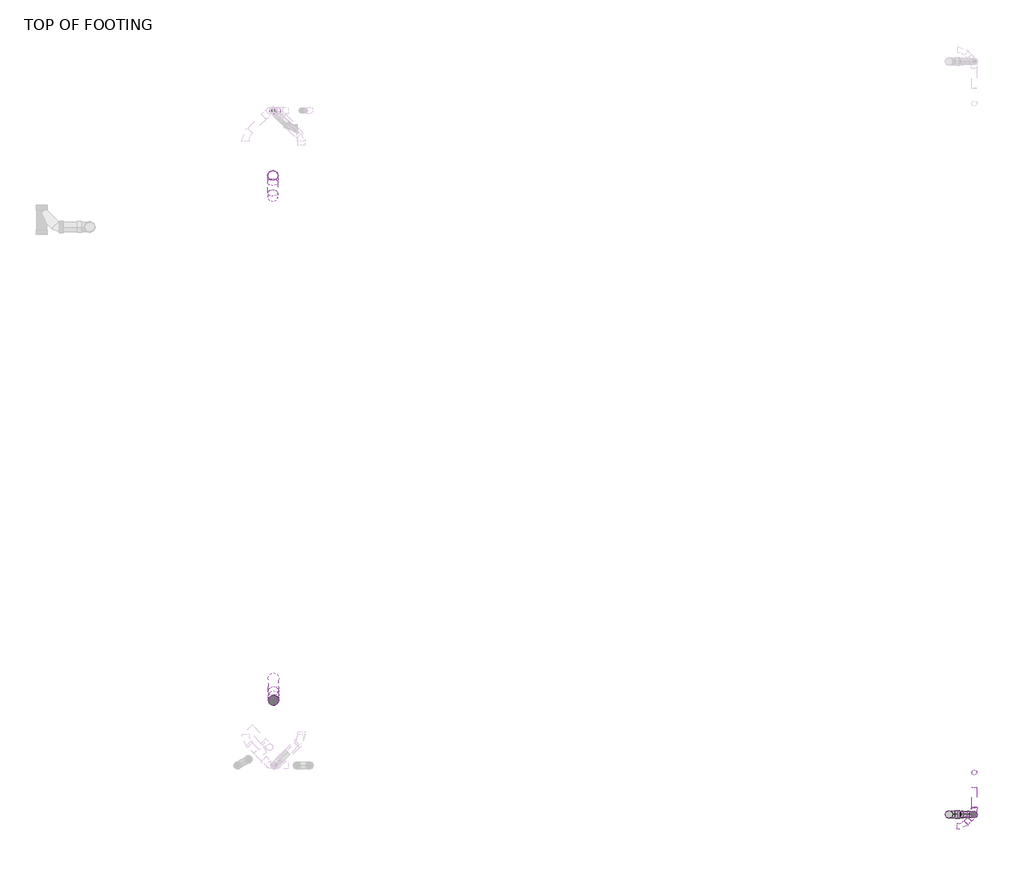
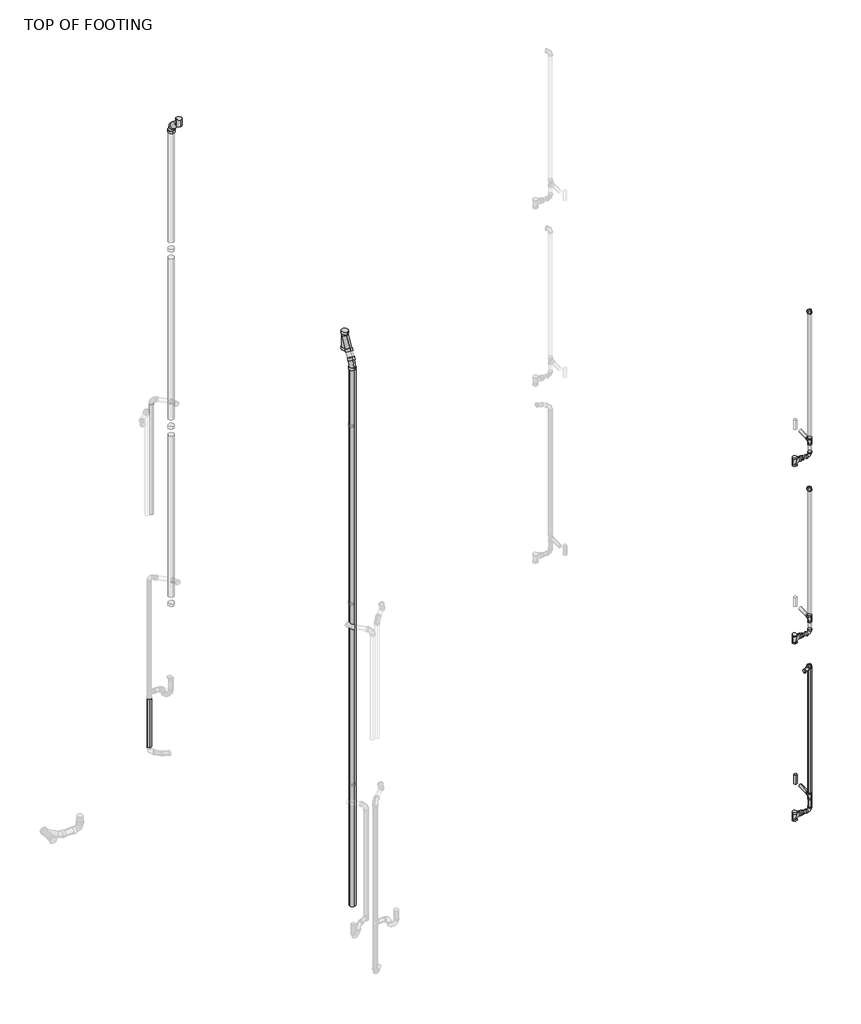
# One storey, part 7 of 8: 30 pipe segments, 20 pipe fittings.
"""IFC4 building model written with IfcOpenShell, lengths in millimetres."""

from ifc_helpers import new_model, si_unit, point, frame, frame_2d, origin, place, context, project, spatial, circle_curve, trimmed, segment, composite_curve, outline, extrude, transform, mapped, element, save
from ifc_brep_helpers import plane_surface, cylinder_surface, advanced_brep
from components import bend_pvc_sch_40_dwv_standard_35af41d9, bend_pvc_sch_40_dwv_standard_e4da6302, bend_pvc_sch_40_dwv_standard_c28c2be1, bend_pvc_sch_40_dwv_standard_db659cf1, bend_pvc_sch_40_dwv_standard_5ba2ab1b, ges_wye_45_deg_reducing_pvc_sch_40_dwv_standard_f9c3620a, pipe_tee_copper_k_e3b6c8a8, reducer_pvc_sch_40_dwv_standard_b23fa098, tee_sanitary_pvc_sch_40_dwv_standard_3578d342, tee_sanitary_pvc_sch_40_dwv_standard_32d7fc6d

model = new_model("IFC4")

# Units and contexts
model_context = context("Model", 3, world=origin())
ifc_project = project(units=[si_unit("LENGTHUNIT", "METRE", prefix="MILLI")], contexts=[model_context])

# Site, building, storey
site = spatial("IfcSite", under=ifc_project)
building = spatial("IfcBuilding", under=site)
storey = spatial("IfcBuildingStorey", under=building, Name="TOP OF FOOTING", Elevation=-762.0)

# Pipe fittings
placement = place(None, origin())
bend_pvc_sch_40_dwv_standard_shape = bend_pvc_sch_40_dwv_standard_35af41d9(model_context)
element("IfcPipeFitting", 1, ObjectType="Bend - PVC - Sch 40 - DWV : Standard", at=placement, inside=storey, context=model_context, shape_type="MappedRepresentation", body=[
    mapped(bend_pvc_sch_40_dwv_standard_shape, transform((23291.1209875, 2089.7012881, 337.3617935), x_axis=(0.0, 0.0, -1.0), y_axis=(1.0, 0.0, 0.0), z_axis=(0.0, -1.0, 0.0))),
])
element("IfcPipeFitting", 2, ObjectType="Bend - PVC - Sch 40 - DWV : Standard", at=placement, inside=storey, context=model_context, shape_type="MappedRepresentation", body=[
    mapped(bend_pvc_sch_40_dwv_standard_shape, transform((23291.1209875, 2089.7012881, 3182.1617935), x_axis=(0.0, 0.0, -1.0), y_axis=(1.0, 0.0, 0.0), z_axis=(0.0, -1.0, 0.0))),
])
element("IfcPipeFitting", 3, ObjectType="Bend - PVC - Sch 40 - DWV : Standard", at=placement, inside=storey, context=model_context, shape_type="MappedRepresentation", body=[
    mapped(bend_pvc_sch_40_dwv_standard_shape, transform((23291.1209875, 2089.7012881, 6026.9617935), x_axis=(0.0, 0.0, -1.0), y_axis=(1.0, 0.0, 0.0), z_axis=(0.0, -1.0, 0.0))),
])
bend_pvc_sch_40_dwv_standard_2_shape = bend_pvc_sch_40_dwv_standard_e4da6302(model_context)
element("IfcPipeFitting", 4, ObjectType="Bend - PVC - Sch 40 - DWV : Standard", at=placement, inside=storey, context=model_context, shape_type="MappedRepresentation", body=[
    mapped(bend_pvc_sch_40_dwv_standard_2_shape, transform((23291.1337024, 2089.6991493, 2682.6265087), x_axis=(0.0, 0.0, 1.0), y_axis=(0.7070876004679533, 0.7071259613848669, 0.0), z_axis=(-0.7071259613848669, 0.7070876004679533, 0.0))),
])
element("IfcPipeFitting", 5, ObjectType="Bend - PVC - Sch 40 - DWV : Standard", at=placement, inside=storey, context=model_context, shape_type="MappedRepresentation", body=[
    mapped(bend_pvc_sch_40_dwv_standard_2_shape, transform((23291.1337024, 2089.6991493, 5527.4265087), x_axis=(0.0, 0.0, 1.0), y_axis=(0.7070876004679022, 0.7071259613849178, 0.0), z_axis=(-0.7071259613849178, 0.7070876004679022, 0.0))),
])
element("IfcPipeFitting", 6, ObjectType="Bend - PVC - Sch 40 - DWV : Standard", at=placement, inside=storey, context=model_context, shape_type="MappedRepresentation", body=[
    mapped(bend_pvc_sch_40_dwv_standard_2_shape, transform((23291.1302501, 2089.699846, 8371.9619664), x_axis=(0.0, 0.0, 1.0), y_axis=(0.7070876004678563, 0.7071259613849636, 0.0), z_axis=(-0.7071259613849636, 0.7070876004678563, 0.0))),
])
bend_pvc_sch_40_dwv_standard_3_shape = bend_pvc_sch_40_dwv_standard_c28c2be1(model_context)
element("IfcPipeFitting", 7, ObjectType="Bend - PVC - Sch 40 - DWV : Standard", at=placement, inside=storey, context=model_context, shape_type="MappedRepresentation", body=[
    mapped(bend_pvc_sch_40_dwv_standard_3_shape, transform((23183.3743364, 1981.9339371, 2683.7490021), x_axis=(-0.7070684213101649, -0.7071067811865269, 0.007365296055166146), y_axis=(0.7070684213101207, -0.7071067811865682, -0.007365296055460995), z_axis=(0.01041610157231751, 0.0, 0.9999457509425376))),
])
bend_pvc_sch_40_dwv_standard_4_shape = bend_pvc_sch_40_dwv_standard_db659cf1(model_context)
element("IfcPipeFitting", 8, ObjectType="Bend - PVC - Sch 40 - DWV : Standard", at=placement, inside=storey, context=model_context, shape_type="MappedRepresentation", body=[
    mapped(bend_pvc_sch_40_dwv_standard_4_shape, transform((16935.7559337, 7876.8887644, 10015.6880691), x_axis=(0.0, 0.0, 1.0), y_axis=(0.0, -1.0, 0.0), z_axis=(1.0, 0.0, 0.0))),
])
bend_pvc_sch_40_dwv_standard_5_shape = bend_pvc_sch_40_dwv_standard_5ba2ab1b(model_context)
element("IfcPipeFitting", 9, ObjectType="Bend - PVC - Sch 40 - DWV : Standard", at=placement, inside=storey, context=model_context, shape_type="MappedRepresentation", body=[
    mapped(bend_pvc_sch_40_dwv_standard_5_shape, transform((16942.371453, 3124.1638117, 9097.5600954), x_axis=(0.002621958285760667, -0.49999828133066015, -0.8660224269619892), y_axis=(-0.004541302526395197, 0.8660105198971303, -0.5000051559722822), z_axis=(0.9999862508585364, 0.005243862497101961, 0.0))),
])
ges_wye_45_deg_reducing_pvc_sch_40_dwv_standard_shape = ges_wye_45_deg_reducing_pvc_sch_40_dwv_standard_f9c3620a(model_context)
element("IfcPipeFitting", 10, ObjectType="GES Wye 45 Deg Reducing - PVC - Sch 40 - DWV : Standard", at=placement, inside=storey, context=model_context, shape_type="MappedRepresentation", body=[
    mapped(ges_wye_45_deg_reducing_pvc_sch_40_dwv_standard_shape, transform((16941.9266298, 3321.8387881, 9439.9431978), x_axis=(0.0, 0.0, 1.0), y_axis=(0.0, 1.0, 0.0), z_axis=(-1.0, 0.0, 0.0))),
])
pipe_tee_copper_k_shape = pipe_tee_copper_k_e3b6c8a8(model_context)
element("IfcPipeFitting", 11, ObjectType="Pipe Tee : Copper- K", at=placement, inside=storey, context=model_context, shape_type="MappedRepresentation", body=[
    mapped(pipe_tee_copper_k_shape, transform((16935.7559337, 7679.2137881, 10213.3630455), x_axis=(0.0, 0.0, 1.0), y_axis=(0.0, -1.0, 0.0), z_axis=(1.0, 0.0, 0.0))),
])
reducer_pvc_sch_40_dwv_standard_shape = reducer_pvc_sch_40_dwv_standard_b23fa098(model_context)
element("IfcPipeFitting", 12, ObjectType="Reducer - PVC - Sch 40 - DWV : Standard", at=placement, inside=storey, context=model_context, shape_type="MappedRepresentation", body=[
    mapped(reducer_pvc_sch_40_dwv_standard_shape, transform((23139.5211875, 2089.7012881, 337.3617935), x_axis=(1.0, 0.0, 0.0), y_axis=(0.0, 1.0, 0.0), z_axis=(0.0, 0.0, 1.0))),
])
element("IfcPipeFitting", 13, ObjectType="Reducer - PVC - Sch 40 - DWV : Standard", at=placement, inside=storey, context=model_context, shape_type="MappedRepresentation", body=[
    mapped(reducer_pvc_sch_40_dwv_standard_shape, transform((23139.5211875, 2089.7012881, 3182.1617935), x_axis=(1.0, 0.0, 0.0), y_axis=(0.0, 1.0, 0.0), z_axis=(0.0, 0.0, 1.0))),
])
element("IfcPipeFitting", 14, ObjectType="Reducer - PVC - Sch 40 - DWV : Standard", at=placement, inside=storey, context=model_context, shape_type="MappedRepresentation", body=[
    mapped(reducer_pvc_sch_40_dwv_standard_shape, transform((23139.5211875, 2089.7012881, 6026.9617935), x_axis=(1.0, 0.0, 0.0), y_axis=(0.0, 1.0, 0.0), z_axis=(0.0, 0.0, 1.0))),
])
tee_sanitary_pvc_sch_40_dwv_standard_shape = tee_sanitary_pvc_sch_40_dwv_standard_3578d342(model_context)
element("IfcPipeFitting", 15, ObjectType="Tee Sanitary - PVC - Sch 40 - DWV : Standard", at=placement, inside=storey, context=model_context, shape_type="MappedRepresentation", body=[
    mapped(tee_sanitary_pvc_sch_40_dwv_standard_shape, transform((23291.1209875, 2089.7012881, 6267.6170389), x_axis=(0.0, 0.0, 1.0), y_axis=(0.0, 1.0, 0.0), z_axis=(-1.0, 0.0, 0.0))),
])
element("IfcPipeFitting", 16, ObjectType="Tee Sanitary - PVC - Sch 40 - DWV : Standard", at=placement, inside=storey, context=model_context, shape_type="MappedRepresentation", body=[
    mapped(tee_sanitary_pvc_sch_40_dwv_standard_shape, transform((23291.1209875, 2089.7012881, 3422.8170389), x_axis=(0.0, 0.0, 1.0), y_axis=(0.0, 1.0, 0.0), z_axis=(-1.0, 0.0, 0.0))),
])
element("IfcPipeFitting", 17, ObjectType="Tee Sanitary - PVC - Sch 40 - DWV : Standard", at=placement, inside=storey, context=model_context, shape_type="MappedRepresentation", body=[
    mapped(tee_sanitary_pvc_sch_40_dwv_standard_shape, transform((23291.1209875, 2089.7012881, 578.0170389), x_axis=(0.0, 0.0, 1.0), y_axis=(0.0, 1.0, 0.0), z_axis=(-1.0, 0.0, 0.0))),
])
tee_sanitary_pvc_sch_40_dwv_standard_2_shape = tee_sanitary_pvc_sch_40_dwv_standard_32d7fc6d(model_context)
element("IfcPipeFitting", 18, ObjectType="Tee Sanitary - PVC - Sch 40 - DWV : Standard", at=placement, inside=storey, context=model_context, shape_type="MappedRepresentation", body=[
    mapped(tee_sanitary_pvc_sch_40_dwv_standard_2_shape, transform((23061.4980301, 2089.9069038, 337.3617935), x_axis=(0.0, 0.0, 1.0), y_axis=(1.0, 0.0, 0.0), z_axis=(0.0, 1.0, 0.0))),
])
element("IfcPipeFitting", 19, ObjectType="Tee Sanitary - PVC - Sch 40 - DWV : Standard", at=placement, inside=storey, context=model_context, shape_type="MappedRepresentation", body=[
    mapped(tee_sanitary_pvc_sch_40_dwv_standard_2_shape, transform((23061.4980301, 2089.9069038, 3182.1617935), x_axis=(0.0, 0.0, 1.0), y_axis=(1.0, 0.0, 0.0), z_axis=(0.0, 1.0, 0.0))),
])
element("IfcPipeFitting", 20, ObjectType="Tee Sanitary - PVC - Sch 40 - DWV : Standard", at=placement, inside=storey, context=model_context, shape_type="MappedRepresentation", body=[
    mapped(tee_sanitary_pvc_sch_40_dwv_standard_2_shape, transform((23061.4980301, 2089.9069038, 6026.9617935), x_axis=(0.0, 0.0, 1.0), y_axis=(1.0, 0.0, 0.0), z_axis=(0.0, 1.0, 0.0))),
])

# Pipe segments
element("IfcPipeSegment", 21, ObjectType="PVC - SAN/STORM", at=placement, inside=storey, context=model_context, shape_type="SweptSolid", body=[
    extrude(outline(composite_curve([segment(trimmed(circle_curve(frame_2d((0.0, -24.13)), 24.13), [point((-24.13, -24.13))], [point((0.0, 0.0))], False, "CARTESIAN"), True, "CONTINUOUS"), segment(trimmed(circle_curve(frame_2d((0.0, -24.13)), 24.13), [point((0.0, 0.0))], [point((24.13, -24.13))], False, "CARTESIAN"), True, "CONTINUOUS"), segment(trimmed(circle_curve(frame_2d((0.0, -24.13)), 24.13), [point((24.13, -24.13))], [point((0.0, -48.2600001))], False, "CARTESIAN"), True, "CONTINUOUS"), segment(trimmed(circle_curve(frame_2d((0.0, -24.13)), 24.13), [point((0.0, -48.2600001))], [point((-24.13, -24.13))], False, "CARTESIAN"), True, "CONTINUOUS")], self_intersect=False)), frame((23291.1209875, 2151.8490706, 6244.1331025), z_axis=(0.0, 0.9999457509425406, 0.010416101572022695), x_axis=(1.0, 0.0, 0.0)), (0.0, 0.0, 1.0), 182.6011639),
])
element("IfcPipeSegment", 22, ObjectType="PVC - SAN/STORM", at=placement, inside=storey, context=model_context, shape_type="SweptSolid", body=[
    extrude(outline(composite_curve([segment(trimmed(circle_curve(frame_2d((23291.1209875, 2469.1137881)), 24.13), [point((23266.9909875, 2469.1137881))], [point((23291.1209875, 2493.2437881))], False, "CARTESIAN"), True, "CONTINUOUS"), segment(trimmed(circle_curve(frame_2d((23291.1209875, 2469.1137881)), 24.13), [point((23291.1209875, 2493.2437881))], [point((23315.2509875, 2469.1137881))], False, "CARTESIAN"), True, "CONTINUOUS"), segment(trimmed(circle_curve(frame_2d((23291.1209875, 2469.1137881)), 24.13), [point((23315.2509875, 2469.1137881))], [point((23291.1209875, 2444.9837881))], False, "CARTESIAN"), True, "CONTINUOUS"), segment(trimmed(circle_curve(frame_2d((23291.1209875, 2469.1137881)), 24.13), [point((23291.1209875, 2444.9837881))], [point((23266.9909875, 2469.1137881))], False, "CARTESIAN"), True, "CONTINUOUS")], self_intersect=False)), frame((0.0, 0.0, 6225.7010858), z_axis=(0.0, 0.0, 1.0), x_axis=(1.0, 0.0, 0.0)), (0.0, 0.0, 1.0), 139.7),
])
element("IfcPipeSegment", 23, ObjectType="PVC - SAN/STORM", at=placement, inside=storey, context=model_context, shape_type="SweptSolid", body=[
    extrude(outline(composite_curve([segment(trimmed(circle_curve(frame_2d((2089.7012881, 6026.9617935)), 24.13), [point((2113.8312881, 6026.9617935))], [point((2089.7012881, 6002.8317935))], False, "CARTESIAN"), True, "CONTINUOUS"), segment(trimmed(circle_curve(frame_2d((2089.7012881, 6026.9617935)), 24.13), [point((2089.7012881, 6002.8317935))], [point((2065.5712881, 6026.9617935))], False, "CARTESIAN"), True, "CONTINUOUS"), segment(trimmed(circle_curve(frame_2d((2089.7012881, 6026.9617935)), 24.13), [point((2065.5712881, 6026.9617935))], [point((2089.7012881, 6051.0917935))], False, "CARTESIAN"), True, "CONTINUOUS"), segment(trimmed(circle_curve(frame_2d((2089.7012881, 6026.9617935)), 24.13), [point((2089.7012881, 6051.0917935))], [point((2113.8312881, 6026.9617935))], False, "CARTESIAN"), True, "CONTINUOUS")], self_intersect=False)), frame((23189.5083875, 0.0, 0.0), z_axis=(1.0, 0.0, 0.0), x_axis=(0.0, 1.0, 0.0)), (0.0, 0.0, 1.0), 39.7128),
])
element("IfcPipeSegment", 24, ObjectType="PVC - SAN/STORM", at=placement, inside=storey, context=model_context, shape_type="SweptSolid", body=[
    extrude(outline(composite_curve([segment(trimmed(circle_curve(frame_2d((23291.1209875, 2089.7012881)), 24.13), [point((23315.2509875, 2089.7012881))], [point((23291.1209875, 2065.5712881))], False, "CARTESIAN"), True, "CONTINUOUS"), segment(trimmed(circle_curve(frame_2d((23291.1209875, 2089.7012881)), 24.13), [point((23291.1209875, 2065.5712881))], [point((23266.9909875, 2089.7012881))], False, "CARTESIAN"), True, "CONTINUOUS"), segment(trimmed(circle_curve(frame_2d((23291.1209875, 2089.7012881)), 24.13), [point((23266.9909875, 2089.7012881))], [point((23291.1209875, 2113.8312881))], False, "CARTESIAN"), True, "CONTINUOUS"), segment(trimmed(circle_curve(frame_2d((23291.1209875, 2089.7012881)), 24.13), [point((23291.1209875, 2113.8312881))], [point((23315.2509875, 2089.7012881))], False, "CARTESIAN"), True, "CONTINUOUS")], self_intersect=False)), frame((0.0, 0.0, 6088.8615935), z_axis=(0.0, 0.0, 1.0), x_axis=(1.0, 0.0, 0.0)), (0.0, 0.0, 1.0), 116.8556454),
])
element("IfcPipeSegment", 25, ObjectType="PVC - SAN/STORM", at=placement, inside=storey, context=model_context, shape_type="SweptSolid", body=[
    extrude(outline(composite_curve([segment(trimmed(circle_curve(frame_2d((0.0, 24.13)), 24.13), [point((-24.13, 24.13))], [point((0.0, 48.26))], False, "CARTESIAN"), True, "CONTINUOUS"), segment(trimmed(circle_curve(frame_2d((0.0, 24.13)), 24.13), [point((0.0, 48.26))], [point((24.13, 24.13))], False, "CARTESIAN"), True, "CONTINUOUS"), segment(trimmed(circle_curve(frame_2d((0.0, 24.13)), 24.13), [point((24.13, 24.13))], [point((0.0, 0.0))], False, "CARTESIAN"), True, "CONTINUOUS"), segment(trimmed(circle_curve(frame_2d((0.0, 24.13)), 24.13), [point((0.0, 0.0))], [point((-24.13, 24.13))], False, "CARTESIAN"), True, "CONTINUOUS")], self_intersect=False)), frame((23291.1209875, 2065.5712881, 6313.8111829), z_axis=(4.640019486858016e-06, -7.223967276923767e-07, 0.9999999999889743), x_axis=(0.9999999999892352, 3.351985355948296e-12, -4.6400194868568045e-06)), (0.0, 0.0, 1.0), 1996.2509661),
])
element("IfcPipeSegment", 26, ObjectType="PVC - SAN/STORM", at=placement, inside=storey, context=model_context, shape_type="SweptSolid", body=[
    extrude(outline(composite_curve([segment(trimmed(circle_curve(frame_2d((0.0, -24.13)), 24.13), [point((-24.13, -24.13))], [point((0.0, 0.0))], False, "CARTESIAN"), True, "CONTINUOUS"), segment(trimmed(circle_curve(frame_2d((0.0, -24.13)), 24.13), [point((0.0, 0.0))], [point((24.13, -24.13))], False, "CARTESIAN"), True, "CONTINUOUS"), segment(trimmed(circle_curve(frame_2d((0.0, -24.13)), 24.13), [point((24.13, -24.13))], [point((0.0, -48.2600001))], False, "CARTESIAN"), True, "CONTINUOUS"), segment(trimmed(circle_curve(frame_2d((0.0, -24.13)), 24.13), [point((0.0, -48.2600001))], [point((-24.13, -24.13))], False, "CARTESIAN"), True, "CONTINUOUS")], self_intersect=False)), frame((23291.1209875, 2151.8490706, 3399.3331025), z_axis=(0.0, 0.9999457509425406, 0.010416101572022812), x_axis=(1.0, 0.0, 0.0)), (0.0, 0.0, 1.0), 182.6011639),
])
element("IfcPipeSegment", 27, ObjectType="PVC - SAN/STORM", at=placement, inside=storey, context=model_context, shape_type="SweptSolid", body=[
    extrude(outline(composite_curve([segment(trimmed(circle_curve(frame_2d((23291.1209875, 2469.1137881)), 24.13), [point((23266.9909875, 2469.1137881))], [point((23291.1209875, 2493.2437881))], False, "CARTESIAN"), True, "CONTINUOUS"), segment(trimmed(circle_curve(frame_2d((23291.1209875, 2469.1137881)), 24.13), [point((23291.1209875, 2493.2437881))], [point((23315.2509875, 2469.1137881))], False, "CARTESIAN"), True, "CONTINUOUS"), segment(trimmed(circle_curve(frame_2d((23291.1209875, 2469.1137881)), 24.13), [point((23315.2509875, 2469.1137881))], [point((23291.1209875, 2444.9837881))], False, "CARTESIAN"), True, "CONTINUOUS"), segment(trimmed(circle_curve(frame_2d((23291.1209875, 2469.1137881)), 24.13), [point((23291.1209875, 2444.9837881))], [point((23266.9909875, 2469.1137881))], False, "CARTESIAN"), True, "CONTINUOUS")], self_intersect=False)), frame((0.0, 0.0, 3380.9010858), z_axis=(0.0, 0.0, 1.0), x_axis=(1.0, 0.0, 0.0)), (0.0, 0.0, 1.0), 139.7),
])
element("IfcPipeSegment", 28, ObjectType="PVC - SAN/STORM", at=placement, inside=storey, context=model_context, shape_type="SweptSolid", body=[
    extrude(outline(composite_curve([segment(trimmed(circle_curve(frame_2d((2089.7012881, 3182.1617935)), 24.13), [point((2113.8312881, 3182.1617935))], [point((2089.7012881, 3158.0317935))], False, "CARTESIAN"), True, "CONTINUOUS"), segment(trimmed(circle_curve(frame_2d((2089.7012881, 3182.1617935)), 24.13), [point((2089.7012881, 3158.0317935))], [point((2065.5712881, 3182.1617935))], False, "CARTESIAN"), True, "CONTINUOUS"), segment(trimmed(circle_curve(frame_2d((2089.7012881, 3182.1617935)), 24.13), [point((2065.5712881, 3182.1617935))], [point((2089.7012881, 3206.2917935))], False, "CARTESIAN"), True, "CONTINUOUS"), segment(trimmed(circle_curve(frame_2d((2089.7012881, 3182.1617935)), 24.13), [point((2089.7012881, 3206.2917935))], [point((2113.8312881, 3182.1617935))], False, "CARTESIAN"), True, "CONTINUOUS")], self_intersect=False)), frame((23189.5083875, 0.0, 0.0), z_axis=(1.0, 0.0, 0.0), x_axis=(0.0, 1.0, 0.0)), (0.0, 0.0, 1.0), 39.7128),
])
element("IfcPipeSegment", 29, ObjectType="PVC - SAN/STORM", at=placement, inside=storey, context=model_context, shape_type="SweptSolid", body=[
    extrude(outline(composite_curve([segment(trimmed(circle_curve(frame_2d((23291.1209875, 2089.7012881)), 24.13), [point((23315.2509875, 2089.7012881))], [point((23291.1209875, 2065.5712881))], False, "CARTESIAN"), True, "CONTINUOUS"), segment(trimmed(circle_curve(frame_2d((23291.1209875, 2089.7012881)), 24.13), [point((23291.1209875, 2065.5712881))], [point((23266.9909875, 2089.7012881))], False, "CARTESIAN"), True, "CONTINUOUS"), segment(trimmed(circle_curve(frame_2d((23291.1209875, 2089.7012881)), 24.13), [point((23266.9909875, 2089.7012881))], [point((23291.1209875, 2113.8312881))], False, "CARTESIAN"), True, "CONTINUOUS"), segment(trimmed(circle_curve(frame_2d((23291.1209875, 2089.7012881)), 24.13), [point((23291.1209875, 2113.8312881))], [point((23315.2509875, 2089.7012881))], False, "CARTESIAN"), True, "CONTINUOUS")], self_intersect=False)), frame((0.0, 0.0, 3244.0615935), z_axis=(0.0, 0.0, 1.0), x_axis=(1.0, 0.0, 0.0)), (0.0, 0.0, 1.0), 116.8556454),
])
element("IfcPipeSegment", 30, ObjectType="PVC - SAN/STORM", at=placement, inside=storey, context=model_context, shape_type="SweptSolid", body=[
    extrude(outline(composite_curve([segment(trimmed(circle_curve(frame_2d((0.0, 24.13)), 24.13), [point((-24.13, 24.13))], [point((0.0, 48.26))], False, "CARTESIAN"), True, "CONTINUOUS"), segment(trimmed(circle_curve(frame_2d((0.0, 24.13)), 24.13), [point((0.0, 48.26))], [point((24.13, 24.13))], False, "CARTESIAN"), True, "CONTINUOUS"), segment(trimmed(circle_curve(frame_2d((0.0, 24.13)), 24.13), [point((24.13, 24.13))], [point((0.0, 0.0))], False, "CARTESIAN"), True, "CONTINUOUS"), segment(trimmed(circle_curve(frame_2d((0.0, 24.13)), 24.13), [point((0.0, 0.0))], [point((-24.13, 24.13))], False, "CARTESIAN"), True, "CONTINUOUS")], self_intersect=False)), frame((23291.1209875, 2065.5712881, 3469.0111745), z_axis=(6.368583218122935e-06, -1.0712312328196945e-06, 0.9999999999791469), x_axis=(0.9999999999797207, 6.822098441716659e-12, -6.368583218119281e-06)), (0.0, 0.0, 1.0), 1996.5155084),
])
element("IfcPipeSegment", 31, ObjectType="PVC - SAN/STORM", at=placement, inside=storey, context=model_context, shape_type="SweptSolid", body=[
    extrude(outline(composite_curve([segment(trimmed(circle_curve(frame_2d((0.0, -24.13)), 24.13), [point((-24.13, -24.13))], [point((0.0, 0.0))], False, "CARTESIAN"), True, "CONTINUOUS"), segment(trimmed(circle_curve(frame_2d((0.0, -24.13)), 24.13), [point((0.0, 0.0))], [point((24.13, -24.13))], False, "CARTESIAN"), True, "CONTINUOUS"), segment(trimmed(circle_curve(frame_2d((0.0, -24.13)), 24.13), [point((24.13, -24.13))], [point((0.0, -48.2600001))], False, "CARTESIAN"), True, "CONTINUOUS"), segment(trimmed(circle_curve(frame_2d((0.0, -24.13)), 24.13), [point((0.0, -48.2600001))], [point((-24.13, -24.13))], False, "CARTESIAN"), True, "CONTINUOUS")], self_intersect=False)), frame((23291.1209875, 2151.8490706, 554.5331025), z_axis=(0.0, 0.9999457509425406, 0.010416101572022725), x_axis=(1.0, 0.0, 0.0)), (0.0, 0.0, 1.0), 182.6011639),
])
element("IfcPipeSegment", 32, ObjectType="PVC - SAN/STORM", at=placement, inside=storey, context=model_context, shape_type="SweptSolid", body=[
    extrude(outline(composite_curve([segment(trimmed(circle_curve(frame_2d((23291.1209875, 2469.1137881)), 24.13), [point((23266.9909875, 2469.1137881))], [point((23291.1209875, 2493.2437881))], False, "CARTESIAN"), True, "CONTINUOUS"), segment(trimmed(circle_curve(frame_2d((23291.1209875, 2469.1137881)), 24.13), [point((23291.1209875, 2493.2437881))], [point((23315.2509875, 2469.1137881))], False, "CARTESIAN"), True, "CONTINUOUS"), segment(trimmed(circle_curve(frame_2d((23291.1209875, 2469.1137881)), 24.13), [point((23315.2509875, 2469.1137881))], [point((23291.1209875, 2444.9837881))], False, "CARTESIAN"), True, "CONTINUOUS"), segment(trimmed(circle_curve(frame_2d((23291.1209875, 2469.1137881)), 24.13), [point((23291.1209875, 2444.9837881))], [point((23266.9909875, 2469.1137881))], False, "CARTESIAN"), True, "CONTINUOUS")], self_intersect=False)), frame((0.0, 0.0, 536.1010858), z_axis=(0.0, 0.0, 1.0), x_axis=(1.0, 0.0, 0.0)), (0.0, 0.0, 1.0), 139.7),
])
element("IfcPipeSegment", 33, ObjectType="PVC - SAN/STORM", at=placement, inside=storey, context=model_context, shape_type="SweptSolid", body=[
    extrude(outline(composite_curve([segment(trimmed(circle_curve(frame_2d((2089.7012881, 337.3617935)), 24.13), [point((2113.8312881, 337.3617935))], [point((2089.7012881, 313.2317935))], False, "CARTESIAN"), True, "CONTINUOUS"), segment(trimmed(circle_curve(frame_2d((2089.7012881, 337.3617935)), 24.13), [point((2089.7012881, 313.2317935))], [point((2065.5712881, 337.3617935))], False, "CARTESIAN"), True, "CONTINUOUS"), segment(trimmed(circle_curve(frame_2d((2089.7012881, 337.3617935)), 24.13), [point((2065.5712881, 337.3617935))], [point((2089.7012881, 361.4917935))], False, "CARTESIAN"), True, "CONTINUOUS"), segment(trimmed(circle_curve(frame_2d((2089.7012881, 337.3617935)), 24.13), [point((2089.7012881, 361.4917935))], [point((2113.8312881, 337.3617935))], False, "CARTESIAN"), True, "CONTINUOUS")], self_intersect=False)), frame((23189.5083875, 0.0, 0.0), z_axis=(1.0, 0.0, 0.0), x_axis=(0.0, 1.0, 0.0)), (0.0, 0.0, 1.0), 39.7128),
])
element("IfcPipeSegment", 34, ObjectType="PVC - SAN/STORM", at=placement, inside=storey, context=model_context, shape_type="SweptSolid", body=[
    extrude(outline(composite_curve([segment(trimmed(circle_curve(frame_2d((23291.1209875, 2089.7012881)), 24.13), [point((23315.2509875, 2089.7012881))], [point((23291.1209875, 2065.5712881))], False, "CARTESIAN"), True, "CONTINUOUS"), segment(trimmed(circle_curve(frame_2d((23291.1209875, 2089.7012881)), 24.13), [point((23291.1209875, 2065.5712881))], [point((23266.9909875, 2089.7012881))], False, "CARTESIAN"), True, "CONTINUOUS"), segment(trimmed(circle_curve(frame_2d((23291.1209875, 2089.7012881)), 24.13), [point((23266.9909875, 2089.7012881))], [point((23291.1209875, 2113.8312881))], False, "CARTESIAN"), True, "CONTINUOUS"), segment(trimmed(circle_curve(frame_2d((23291.1209875, 2089.7012881)), 24.13), [point((23291.1209875, 2113.8312881))], [point((23315.2509875, 2089.7012881))], False, "CARTESIAN"), True, "CONTINUOUS")], self_intersect=False)), frame((0.0, 0.0, 399.2615935), z_axis=(0.0, 0.0, 1.0), x_axis=(1.0, 0.0, 0.0)), (0.0, 0.0, 1.0), 116.8556454),
])
element("IfcPipeSegment", 35, ObjectType="PVC - SAN/STORM", at=placement, inside=storey, context=model_context, shape_type="SweptSolid", body=[
    extrude(outline(composite_curve([segment(trimmed(circle_curve(frame_2d((0.0, 24.13)), 24.13), [point((-24.13, 24.13))], [point((0.0, 48.26))], False, "CARTESIAN"), True, "CONTINUOUS"), segment(trimmed(circle_curve(frame_2d((0.0, 24.13)), 24.13), [point((0.0, 48.26))], [point((24.13, 24.13))], False, "CARTESIAN"), True, "CONTINUOUS"), segment(trimmed(circle_curve(frame_2d((0.0, 24.13)), 24.13), [point((24.13, 24.13))], [point((0.0, 0.0))], False, "CARTESIAN"), True, "CONTINUOUS"), segment(trimmed(circle_curve(frame_2d((0.0, 24.13)), 24.13), [point((0.0, 0.0))], [point((-24.13, 24.13))], False, "CARTESIAN"), True, "CONTINUOUS")], self_intersect=False)), frame((23291.1209875, 2065.5712881, 624.2111745), z_axis=(6.3685832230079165e-06, -1.0712312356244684e-06, 0.9999999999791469), x_axis=(0.9999999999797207, 6.822098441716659e-12, -6.368583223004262e-06)), (0.0, 0.0, 1.0), 1996.5155084),
])
element("IfcPipeSegment", 36, ObjectType="PVC - SAN/STORM", at=placement, inside=storey, context=model_context, shape_type="SweptSolid", body=[
    extrude(outline(composite_curve([segment(trimmed(circle_curve(frame_2d((0.0, 24.1300001)), 24.13), [point((-24.1293456, 24.3077102))], [point((0.1777101, 48.2593457))], False, "CARTESIAN"), True, "CONTINUOUS"), segment(trimmed(circle_curve(frame_2d((0.0, 24.1300001)), 24.13), [point((0.1777101, 48.2593457))], [point((24.1293456, 23.95229))], False, "CARTESIAN"), True, "CONTINUOUS"), segment(trimmed(circle_curve(frame_2d((0.0, 24.1300001)), 24.13), [point((24.1293456, 23.95229))], [point((-0.1777101, 0.0006545))], False, "CARTESIAN"), True, "CONTINUOUS"), segment(trimmed(circle_curve(frame_2d((0.0, 24.1300001)), 24.13), [point((-0.1777101, 0.0006545))], [point((-24.1293456, 24.3077102))], False, "CARTESIAN"), True, "CONTINUOUS")], self_intersect=False)), frame((23247.3663086, 2045.6780541, 2658.9537279), z_axis=(-0.7070684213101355, -0.7071067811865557, 0.0073652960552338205), x_axis=(0.7071451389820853, -0.7070300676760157, 0.007364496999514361)), (0.0, 0.0, 1.0), 44.4784246),
])
element("IfcPipeSegment", 37, ObjectType="PVC - SAN/STORM", at=placement, inside=storey, context=model_context, shape_type="AdvancedBrep", body=[
    advanced_brep(
    [(16969.2680593, 8466.0341213, 492.1621091), (16939.1055593, 8496.1966213, 492.1630643), (16908.9430593, 8466.0341213, 492.1621093), (16939.1055593, 8435.8716213, 492.161154), (16969.2680566, 8466.0588335, -288.2014462), (16939.1055566, 8435.8963335, -288.2024013), (16908.9430566, 8466.0588335, -288.201446), (16939.1055566, 8496.2213334, -288.2004909)],
    [
        (0, 1, circle_curve(frame((16939.1055593, 8466.0341213, 492.1621091), z_axis=(0.0, -3.16675105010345e-05, 0.9999999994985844), x_axis=(1.0, 0.0, 0.0)), 30.1625)),
        (1, 2, circle_curve(frame((16939.1055593, 8466.0341213, 492.1621092), z_axis=(0.0, -3.16675105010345e-05, 0.9999999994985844), x_axis=(1.0, 0.0, 0.0)), 30.1625)),
        (2, 3, circle_curve(frame((16939.1055593, 8466.0341213, 492.1621093), z_axis=(0.0, -3.16675105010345e-05, 0.9999999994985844), x_axis=(1.0, 0.0, 0.0)), 30.1625)),
        (3, 0, circle_curve(frame((16939.1055593, 8466.0341213, 492.1621092), z_axis=(0.0, -3.16675105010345e-05, 0.9999999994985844), x_axis=(1.0, 0.0, 0.0)), 30.1625)),
        (4, 5, circle_curve(frame((16939.1055593, 8466.0588335, -288.2014462), z_axis=(0.0, 3.16675105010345e-05, -0.9999999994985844), x_axis=(1.0, 0.0, 0.0)), 30.1624974)),
        (5, 6, circle_curve(frame((16939.1055593, 8466.0588335, -288.2014461), z_axis=(0.0, 3.16675105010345e-05, -0.9999999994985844), x_axis=(1.0, 0.0, 0.0)), 30.1625)),
        (6, 7, circle_curve(frame((16939.1055593, 8466.0588335, -288.201446), z_axis=(0.0, 3.16675105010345e-05, -0.9999999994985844), x_axis=(1.0, 0.0, 0.0)), 30.1625026)),
        (7, 4, circle_curve(frame((16939.1055593, 8466.0588335, -288.2014461), z_axis=(0.0, 3.16675105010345e-05, -0.9999999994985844), x_axis=(1.0, 0.0, 0.0)), 30.1625)),
        (0, 4),
        (7, 1),
        (6, 2),
        (5, 3),
    ],
    [
        plane_surface(frame((16939.1055593, 8435.8716213, 492.161154), z_axis=(3.36983618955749e-09, -3.1667510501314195e-05, 0.9999999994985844), x_axis=(-1.0, 0.0, 3.3698361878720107e-09))),
        plane_surface(frame((16939.1055566, 8435.8963335, -288.2024013), z_axis=(-3.36983618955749e-09, 3.1667510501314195e-05, -0.9999999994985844), x_axis=(-1.0, 0.0, 3.3698361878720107e-09))),
        cylinder_surface(frame((16939.1055593, 8466.0341213, 492.1621092), z_axis=(0.0, -3.16675105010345e-05, 0.9999999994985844), x_axis=(1.0, 0.0, 0.0)), 30.1625),
    ],
    [
        (0, [[1, 2, 3, 4]]),
        (1, [[5, 6, 7, 8]]),
        (2, [[-1, 9, -8, 10]]),
        (2, [[-2, -10, -7, 11]]),
        (2, [[-3, -11, -6, 12]]),
        (2, [[-4, -12, -5, -9]]),
    ],
),
])
element("IfcPipeSegment", 38, ObjectType="PVC - SAN/STORM", at=placement, inside=storey, context=model_context, shape_type="SweptSolid", body=[
    extrude(outline(composite_curve([segment(trimmed(circle_curve(frame_2d((16944.2702977, 3120.5512471)), 44.45), [point((16899.8202977, 3120.5512471))], [point((16944.2702977, 3165.0012471))], False, "CARTESIAN"), True, "CONTINUOUS"), segment(trimmed(circle_curve(frame_2d((16944.2702977, 3120.5512471)), 44.45), [point((16944.2702977, 3165.0012471))], [point((16988.7202977, 3120.5512471))], False, "CARTESIAN"), True, "CONTINUOUS"), segment(trimmed(circle_curve(frame_2d((16944.2702977, 3120.5512471)), 44.45), [point((16988.7202977, 3120.5512471))], [point((16944.2702977, 3076.1012471))], False, "CARTESIAN"), True, "CONTINUOUS"), segment(trimmed(circle_curve(frame_2d((16944.2702977, 3120.5512471)), 44.45), [point((16944.2702977, 3076.1012471))], [point((16899.8202977, 3120.5512471))], False, "CARTESIAN"), True, "CONTINUOUS")], self_intersect=False)), frame((0.0, 0.0, 2341.5615858), z_axis=(0.0, 0.0, 1.0), x_axis=(1.0, 0.0, 0.0)), (0.0, 0.0, 1.0), 41.638621),
])
element("IfcPipeSegment", 39, ObjectType="PVC - SAN/STORM", at=placement, inside=storey, context=model_context, shape_type="SweptSolid", body=[
    extrude(outline(composite_curve([segment(trimmed(circle_curve(frame_2d((16935.7559337, 7876.8887644)), 44.45), [point((16891.3059337, 7876.8887644))], [point((16935.7559337, 7921.3387644))], False, "CARTESIAN"), True, "CONTINUOUS"), segment(trimmed(circle_curve(frame_2d((16935.7559337, 7876.8887644)), 44.45), [point((16935.7559337, 7921.3387644))], [point((16980.2059337, 7876.8887644))], False, "CARTESIAN"), True, "CONTINUOUS"), segment(trimmed(circle_curve(frame_2d((16935.7559337, 7876.8887644)), 44.45), [point((16980.2059337, 7876.8887644))], [point((16935.7559337, 7832.4387644))], False, "CARTESIAN"), True, "CONTINUOUS"), segment(trimmed(circle_curve(frame_2d((16935.7559337, 7876.8887644)), 44.45), [point((16935.7559337, 7832.4387644))], [point((16891.3059337, 7876.8887644))], False, "CARTESIAN"), True, "CONTINUOUS")], self_intersect=False)), frame((0.0, 0.0, 8183.5625), z_axis=(0.0, 0.0, 1.0), x_axis=(1.0, 0.0, 0.0)), (0.0, 0.0, 1.0), 1749.5755691),
])
element("IfcPipeSegment", 40, ObjectType="PVC - SAN/STORM", at=placement, inside=storey, context=model_context, shape_type="SweptSolid", body=[
    extrude(outline(composite_curve([segment(trimmed(circle_curve(frame_2d((0.0, 30.1625)), 30.1625), [point((-30.1625, 30.1625))], [point((0.0, 60.325))], False, "CARTESIAN"), True, "CONTINUOUS"), segment(trimmed(circle_curve(frame_2d((0.0, 30.1625)), 30.1625), [point((0.0, 60.325))], [point((30.1625, 30.1625))], False, "CARTESIAN"), True, "CONTINUOUS"), segment(trimmed(circle_curve(frame_2d((0.0, 30.1625)), 30.1625), [point((30.1625, 30.1625))], [point((0.0, 0.0))], False, "CARTESIAN"), True, "CONTINUOUS"), segment(trimmed(circle_curve(frame_2d((0.0, 30.1625)), 30.1625), [point((0.0, 0.0))], [point((-30.1625, 30.1625))], False, "CARTESIAN"), True, "CONTINUOUS")], self_intersect=False)), frame((16975.4347258, 8435.1085421, 3441.2981071), z_axis=(4.3621934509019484e-08, 4.362194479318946e-08, 0.9999999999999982), x_axis=(0.9999999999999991, 0.0, -4.362193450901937e-08)), (0.0, 0.0, 1.0), 1764.0974032),
])
element("IfcPipeSegment", 41, ObjectType="PVC - SAN/STORM", at=placement, inside=storey, context=model_context, shape_type="SweptSolid", body=[
    extrude(outline(composite_curve([segment(trimmed(circle_curve(frame_2d((16935.7559337, 7876.8887644)), 44.45), [point((16891.3059337, 7876.8887644))], [point((16935.7559337, 7921.3387644))], False, "CARTESIAN"), True, "CONTINUOUS"), segment(trimmed(circle_curve(frame_2d((16935.7559337, 7876.8887644)), 44.45), [point((16935.7559337, 7921.3387644))], [point((16980.2059337, 7876.8887644))], False, "CARTESIAN"), True, "CONTINUOUS"), segment(trimmed(circle_curve(frame_2d((16935.7559337, 7876.8887644)), 44.45), [point((16980.2059337, 7876.8887644))], [point((16935.7559337, 7832.4387644))], False, "CARTESIAN"), True, "CONTINUOUS"), segment(trimmed(circle_curve(frame_2d((16935.7559337, 7876.8887644)), 44.45), [point((16935.7559337, 7832.4387644))], [point((16891.3059337, 7876.8887644))], False, "CARTESIAN"), True, "CONTINUOUS")], self_intersect=False)), frame((0.0, 0.0, 5186.3625), z_axis=(0.0, 0.0, 1.0), x_axis=(1.0, 0.0, 0.0)), (0.0, 0.0, 1.0), 41.275),
])
element("IfcPipeSegment", 42, ObjectType="PVC - SAN/STORM", at=placement, inside=storey, context=model_context, shape_type="SweptSolid", body=[
    extrude(outline(composite_curve([segment(trimmed(circle_curve(frame_2d((16935.7559337, 7876.8887644)), 44.45), [point((16891.3059337, 7876.8887644))], [point((16935.7559337, 7921.3387644))], False, "CARTESIAN"), True, "CONTINUOUS"), segment(trimmed(circle_curve(frame_2d((16935.7559337, 7876.8887644)), 44.45), [point((16935.7559337, 7921.3387644))], [point((16980.2059337, 7876.8887644))], False, "CARTESIAN"), True, "CONTINUOUS"), segment(trimmed(circle_curve(frame_2d((16935.7559337, 7876.8887644)), 44.45), [point((16980.2059337, 7876.8887644))], [point((16935.7559337, 7832.4387644))], False, "CARTESIAN"), True, "CONTINUOUS"), segment(trimmed(circle_curve(frame_2d((16935.7559337, 7876.8887644)), 44.45), [point((16935.7559337, 7832.4387644))], [point((16891.3059337, 7876.8887644))], False, "CARTESIAN"), True, "CONTINUOUS")], self_intersect=False)), frame((0.0, 0.0, 2494.3252068), z_axis=(0.0, 0.0, 1.0), x_axis=(1.0, 0.0, 0.0)), (0.0, 0.0, 1.0), 2580.9122932),
])
element("IfcPipeSegment", 43, ObjectType="PVC - SAN/STORM", at=placement, inside=storey, context=model_context, shape_type="SweptSolid", body=[
    extrude(outline(composite_curve([segment(trimmed(circle_curve(frame_2d((16935.7559337, 7876.8887644)), 44.45), [point((16891.3059337, 7876.8887644))], [point((16935.7559337, 7921.3387644))], False, "CARTESIAN"), True, "CONTINUOUS"), segment(trimmed(circle_curve(frame_2d((16935.7559337, 7876.8887644)), 44.45), [point((16935.7559337, 7921.3387644))], [point((16980.2059337, 7876.8887644))], False, "CARTESIAN"), True, "CONTINUOUS"), segment(trimmed(circle_curve(frame_2d((16935.7559337, 7876.8887644)), 44.45), [point((16980.2059337, 7876.8887644))], [point((16935.7559337, 7832.4387644))], False, "CARTESIAN"), True, "CONTINUOUS"), segment(trimmed(circle_curve(frame_2d((16935.7559337, 7876.8887644)), 44.45), [point((16935.7559337, 7832.4387644))], [point((16891.3059337, 7876.8887644))], False, "CARTESIAN"), True, "CONTINUOUS")], self_intersect=False)), frame((0.0, 0.0, 2341.5615858), z_axis=(0.0, 0.0, 1.0), x_axis=(1.0, 0.0, 0.0)), (0.0, 0.0, 1.0), 41.638621),
])
element("IfcPipeSegment", 44, ObjectType="PVC - SAN/STORM", at=placement, inside=storey, context=model_context, shape_type="SweptSolid", body=[
    extrude(outline(composite_curve([segment(trimmed(circle_curve(frame_2d((16935.7559337, 7876.8887644)), 44.45), [point((16891.3059337, 7876.8887644))], [point((16935.7559337, 7921.3387644))], False, "CARTESIAN"), True, "CONTINUOUS"), segment(trimmed(circle_curve(frame_2d((16935.7559337, 7876.8887644)), 44.45), [point((16935.7559337, 7921.3387644))], [point((16980.2059337, 7876.8887644))], False, "CARTESIAN"), True, "CONTINUOUS"), segment(trimmed(circle_curve(frame_2d((16935.7559337, 7876.8887644)), 44.45), [point((16980.2059337, 7876.8887644))], [point((16935.7559337, 7832.4387644))], False, "CARTESIAN"), True, "CONTINUOUS"), segment(trimmed(circle_curve(frame_2d((16935.7559337, 7876.8887644)), 44.45), [point((16935.7559337, 7832.4387644))], [point((16891.3059337, 7876.8887644))], False, "CARTESIAN"), True, "CONTINUOUS")], self_intersect=False)), frame((0.0, 0.0, 5338.7625), z_axis=(0.0, 0.0, 1.0), x_axis=(1.0, 0.0, 0.0)), (0.0, 0.0, 1.0), 2581.275),
])
element("IfcPipeSegment", 45, ObjectType="PVC - SAN/STORM", at=placement, inside=storey, context=model_context, shape_type="SweptSolid", body=[
    extrude(outline(composite_curve([segment(trimmed(circle_curve(frame_2d((16935.7559337, 7876.8887644)), 44.45), [point((16891.3059337, 7876.8887644))], [point((16935.7559337, 7921.3387644))], False, "CARTESIAN"), True, "CONTINUOUS"), segment(trimmed(circle_curve(frame_2d((16935.7559337, 7876.8887644)), 44.45), [point((16935.7559337, 7921.3387644))], [point((16980.2059337, 7876.8887644))], False, "CARTESIAN"), True, "CONTINUOUS"), segment(trimmed(circle_curve(frame_2d((16935.7559337, 7876.8887644)), 44.45), [point((16980.2059337, 7876.8887644))], [point((16935.7559337, 7832.4387644))], False, "CARTESIAN"), True, "CONTINUOUS"), segment(trimmed(circle_curve(frame_2d((16935.7559337, 7876.8887644)), 44.45), [point((16935.7559337, 7832.4387644))], [point((16891.3059337, 7876.8887644))], False, "CARTESIAN"), True, "CONTINUOUS")], self_intersect=False)), frame((0.0, 0.0, 8031.1625), z_axis=(0.0, 0.0, 1.0), x_axis=(1.0, 0.0, 0.0)), (0.0, 0.0, 1.0), 41.275),
])
element("IfcPipeSegment", 46, ObjectType="PVC - SAN/STORM", at=placement, inside=storey, context=model_context, shape_type="SweptSolid", body=[
    extrude(outline(composite_curve([segment(trimmed(circle_curve(frame_2d((0.0, -44.45)), 44.45), [point((44.45, -44.45))], [point((0.0, -88.9))], False, "CARTESIAN"), True, "CONTINUOUS"), segment(trimmed(circle_curve(frame_2d((0.0, -44.45)), 44.45), [point((0.0, -88.9))], [point((-44.45, -44.45))], False, "CARTESIAN"), True, "CONTINUOUS"), segment(trimmed(circle_curve(frame_2d((0.0, -44.45)), 44.45), [point((-44.45, -44.45))], [point((0.0, 0.0))], False, "CARTESIAN"), True, "CONTINUOUS"), segment(trimmed(circle_curve(frame_2d((0.0, -44.45)), 44.45), [point((0.0, 0.0))], [point((44.45, -44.45))], False, "CARTESIAN"), True, "CONTINUOUS")], self_intersect=False)), frame((16935.7559337, 7849.9479961, 10105.4906303), z_axis=(0.0, -0.7071067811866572, 0.7071067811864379), x_axis=(1.0, 0.0, 0.0)), (0.0, 0.0, 1.0), 141.4421325),
])
element("IfcPipeSegment", 47, ObjectType="PVC - SAN/STORM", at=placement, inside=storey, context=model_context, shape_type="SweptSolid", body=[
    extrude(outline(composite_curve([segment(trimmed(circle_curve(frame_2d((0.0, -44.45)), 44.45), [point((-44.4495416, -44.6518616))], [point((-0.2018616, -0.0004584))], False, "CARTESIAN"), True, "CONTINUOUS"), segment(trimmed(circle_curve(frame_2d((0.0, -44.45)), 44.45), [point((-0.2018616, -0.0004584))], [point((44.4495417, -44.2481384))], False, "CARTESIAN"), True, "CONTINUOUS"), segment(trimmed(circle_curve(frame_2d((0.0, -44.45)), 44.45), [point((44.4495417, -44.2481384))], [point((0.2018616, -88.8995416))], False, "CARTESIAN"), True, "CONTINUOUS"), segment(trimmed(circle_curve(frame_2d((0.0, -44.45)), 44.45), [point((0.2018616, -88.8995416))], [point((-44.4495416, -44.6518616))], False, "CARTESIAN"), True, "CONTINUOUS")], self_intersect=False)), frame((16942.1550103, 3203.933499, 9146.8252467), z_axis=(-0.002621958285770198, 0.4999982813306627, 0.8660224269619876), x_axis=(0.9999965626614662, 0.0013109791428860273, 0.0022706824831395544)), (0.0, 0.0, 1.0), 87.1030308),
])
element("IfcPipeSegment", 48, ObjectType="PVC - SAN/STORM", at=placement, inside=storey, context=model_context, shape_type="SweptSolid", body=[
    extrude(outline(composite_curve([segment(trimmed(circle_curve(frame_2d((16935.7559337, 3124.1638117)), 44.45), [point((16891.3059337, 3124.1638117))], [point((16935.7559337, 3168.6138117))], False, "CARTESIAN"), True, "CONTINUOUS"), segment(trimmed(circle_curve(frame_2d((16935.7559337, 3124.1638117)), 44.45), [point((16935.7559337, 3168.6138117))], [point((16980.2059337, 3124.1638117))], False, "CARTESIAN"), True, "CONTINUOUS"), segment(trimmed(circle_curve(frame_2d((16935.7559337, 3124.1638117)), 44.45), [point((16980.2059337, 3124.1638117))], [point((16935.7559337, 3079.7138117))], False, "CARTESIAN"), True, "CONTINUOUS"), segment(trimmed(circle_curve(frame_2d((16935.7559337, 3124.1638117)), 44.45), [point((16935.7559337, 3079.7138117))], [point((16891.3059337, 3124.1638117))], False, "CARTESIAN"), True, "CONTINUOUS")], self_intersect=False)), frame((0.0, 0.0, 5243.5125), z_axis=(0.0, 0.0, 1.0), x_axis=(1.0, 0.0, 0.0)), (0.0, 0.0, 1.0), 41.275),
])
element("IfcPipeSegment", 49, ObjectType="PVC - SAN/STORM", at=placement, inside=storey, context=model_context, shape_type="SweptSolid", body=[
    extrude(outline(composite_curve([segment(trimmed(circle_curve(frame_2d((16935.7559337, 3124.1638117)), 44.45), [point((16891.3059337, 3124.1638117))], [point((16935.7559337, 3168.6138117))], False, "CARTESIAN"), True, "CONTINUOUS"), segment(trimmed(circle_curve(frame_2d((16935.7559337, 3124.1638117)), 44.45), [point((16935.7559337, 3168.6138117))], [point((16980.2059337, 3124.1638117))], False, "CARTESIAN"), True, "CONTINUOUS"), segment(trimmed(circle_curve(frame_2d((16935.7559337, 3124.1638117)), 44.45), [point((16980.2059337, 3124.1638117))], [point((16935.7559337, 3079.7138117))], False, "CARTESIAN"), True, "CONTINUOUS"), segment(trimmed(circle_curve(frame_2d((16935.7559337, 3124.1638117)), 44.45), [point((16935.7559337, 3079.7138117))], [point((16891.3059337, 3124.1638117))], False, "CARTESIAN"), True, "CONTINUOUS")], self_intersect=False)), frame((0.0, 0.0, 8094.6625), z_axis=(0.0, 0.0, 1.0), x_axis=(1.0, 0.0, 0.0)), (0.0, 0.0, 1.0), 41.275),
])
element("IfcPipeSegment", 50, ObjectType="PVC - SAN/STORM", at=placement, inside=storey, context=model_context, shape_type="SweptSolid", body=[
    extrude(outline(composite_curve([segment(trimmed(circle_curve(frame_2d((0.0, -44.45)), 44.45), [point((-44.45, -44.45))], [point((0.0, 0.0))], False, "CARTESIAN"), True, "CONTINUOUS"), segment(trimmed(circle_curve(frame_2d((0.0, -44.45)), 44.45), [point((0.0, 0.0))], [point((44.45, -44.45))], False, "CARTESIAN"), True, "CONTINUOUS"), segment(trimmed(circle_curve(frame_2d((0.0, -44.45)), 44.45), [point((44.45, -44.45))], [point((0.0, -88.9))], False, "CARTESIAN"), True, "CONTINUOUS"), segment(trimmed(circle_curve(frame_2d((0.0, -44.45)), 44.45), [point((0.0, -88.9))], [point((-44.45, -44.45))], False, "CARTESIAN"), True, "CONTINUOUS")], self_intersect=False)), frame((16942.30848, 3079.7138117, 410.8427869), z_axis=(7.318892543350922e-06, 0.0, 0.999999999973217), x_axis=(-0.999999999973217, 0.0, 7.318892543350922e-06)), (0.0, 0.0, 1.0), 8604.1673087),
])

save(model, "model.ifc")
